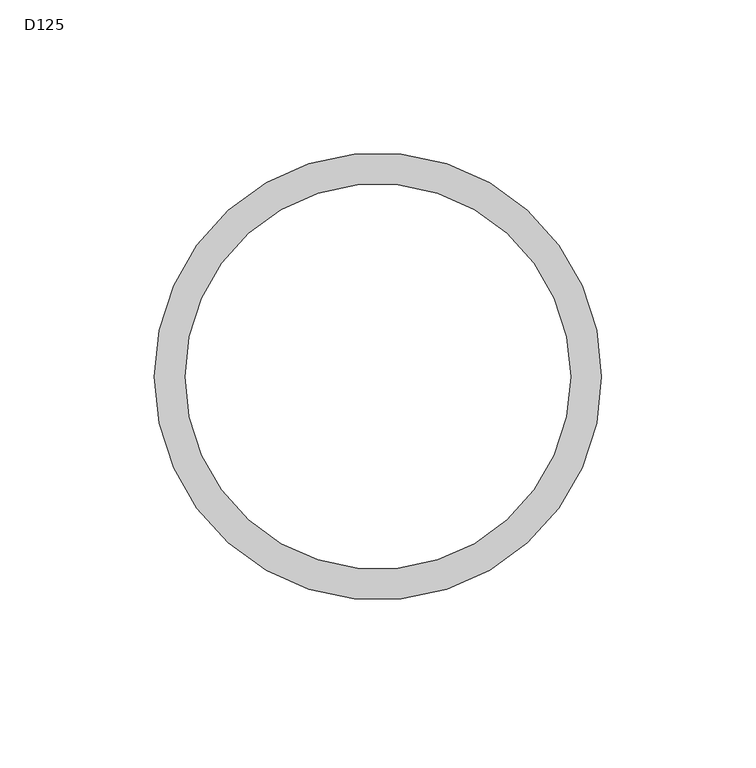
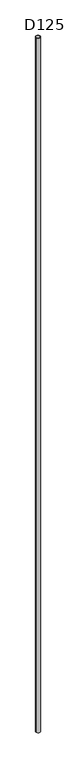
"""IFC4 building model written with IfcOpenShell, lengths in millimetres: proxy geometry, GM_Вентканал_О : D125."""

from ifc_helpers import new_model, si_unit, point, frame, origin, origin_2d, place, context, project, spatial, circle_curve, trimmed, segment, composite_curve, outline, extrude, source, transform, mapped, element, save


def d125_8ca146dc(model_context):
    return source(origin(), model_context, "Body", "SweptSolid", [
        extrude(outline(composite_curve([segment(trimmed(circle_curve(origin_2d(), 72.5), [point((-72.5, 0.0))], [point((72.5, 0.0))], False, "CARTESIAN"), True, "CONTINUOUS"), segment(trimmed(circle_curve(origin_2d(), 72.5), [point((72.5, 0.0))], [point((-72.5, 0.0))], False, "CARTESIAN"), True, "CONTINUOUS")], self_intersect=False), holes=[composite_curve([segment(trimmed(circle_curve(origin_2d(), 62.5), [point((-62.5, 0.0))], [point((62.5, 0.0))], True, "CARTESIAN"), True, "CONTINUOUS"), segment(trimmed(circle_curve(origin_2d(), 62.5), [point((62.5, 0.0))], [point((-62.5, 0.0))], True, "CARTESIAN"), True, "CONTINUOUS")], self_intersect=False)]), frame((0.0, 0.0, 4500.0), z_axis=(0.0, 0.0, 1.0), x_axis=(1.0, 0.0, 0.0)), (0.0, 0.0, 1.0), 25200.0),
    ])


if __name__ == "__main__":
    model = new_model("IFC4")
    model_context = context("Model", 3, world=origin())
    ifc_project = project(units=[si_unit("LENGTHUNIT", "METRE", prefix="MILLI")], contexts=[model_context])
    site = spatial("IfcSite", under=ifc_project)
    building = spatial("IfcBuilding", under=site)
    placement = place(None, origin())
    d125_shape = d125_8ca146dc(model_context)
    element("IfcBuildingElementProxy", 1, Name="GM_Вентканал_О : D125", ObjectType="GM_Вентканал_О : D125", at=placement, inside=building, context=model_context, shape_type="MappedRepresentation", body=[
        mapped(d125_shape, transform((0.0, 0.0, 0.0), x_axis=(1.0, 0.0, 0.0), y_axis=(0.0, 1.0, 0.0), z_axis=(0.0, 0.0, 1.0))),
    ])
    save(model, "model.ifc")
